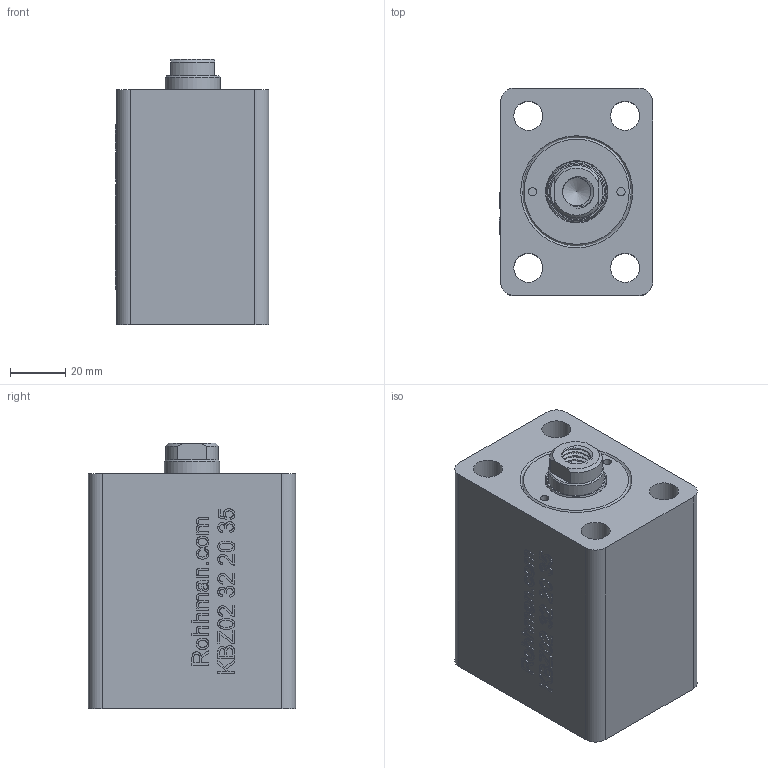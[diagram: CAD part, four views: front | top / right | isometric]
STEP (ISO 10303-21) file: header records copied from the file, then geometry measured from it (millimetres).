
FILE_DESCRIPTION(/* description */ (''),/* implementation_level */ '2;1');
FILE_NAME(/* name */ 'C:/Users/TEKNO/YandexDisk/Traceparts/SelfPublishingProductsCatalogBasicTemplate_KINETICTR.xlsm/KBZ_02_32_20_35.step',/* time_stamp */ '2022-10-02T11:08:54+03:00',/* author */ (''),/* organization */ (''),/* preprocessor_version */ 'ST-DEVELOPER v19',/* originating_system */ 'Autodesk Translation Framework v11.7.0.108',/* authorisation */ '');
FILE_SCHEMA (('AUTOMOTIVE_DESIGN { 1 0 10303 214 3 1 1 }'));
Products named in the file (10): KBZ_02_32_20_40_WEB; KBZ_02_32-20_ON_KAPAK; 20_23_8; Component1; K06-20X25X4_3X6; K22-20X26X3_5; KBZ_02_32_40_GOVDE; Component1_1; 20_K_MIL_40_WEB; Component1_2
Assembly tree (9 placements, depth 4):
  KBZ_02_32_20_40_WEB
    KBZ_02_32-20_ON_KAPAK
      20_23_8
        Component1
      K06-20X25X4_3X6
      K22-20X26X3_5
    KBZ_02_32_40_GOVDE
      Component1_1
    20_K_MIL_40_WEB
      Component1_2
Bounding box: 55.5 x 75 x 96 mm (x, y, z)
Volume: 263146.6 mm3; surface area: 68390.7 mm2
Topology: 6 solids, 6 shells, 763 faces, 2066 edges, 1365 vertices
Faces by surface type: bspline 370, plane 208, cylinder 133, cone 43, torus 9
Full cylindrical faces by diameter (mm): 3 x4, 9.836 x5, 10.274 x7, 10.5 x4, 11.834 x6, 12.226 x8, 13.157 x14, 16 x1, 16.5 x4, 20 x2, 20.4 x1, 20.5 x2, 21.2 x1, 22 x1, 23 x2, 25 x2, 26 x2, 30.4 x1, 32 x1, 35 x2, 35.5 x1, 38.132 x8, 38.526 x8, 39.85 x8, 40.208 x9
Entity records: 44526 total; most frequent: CARTESIAN_POINT 27817, ORIENTED_EDGE 4126, DIRECTION 2141, EDGE_CURVE 2063, VERTEX_POINT 1364, B_SPLINE_CURVE_WITH_KNOTS 946, LINE 909, VECTOR 909
